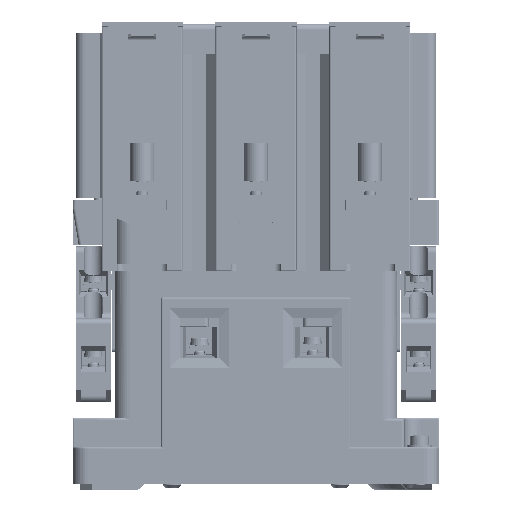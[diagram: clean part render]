
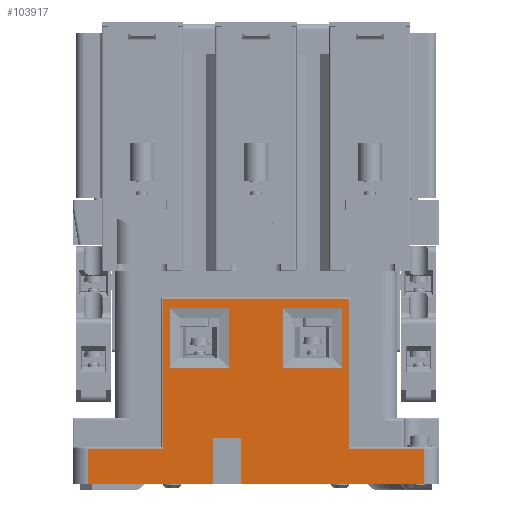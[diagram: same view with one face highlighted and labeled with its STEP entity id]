
A CAD part, left-side view. The second image highlights one B-rep face of the part: STEP entity #103917.
In plain terms, the highlighted planar face has unit normal (-1, 0, 0).
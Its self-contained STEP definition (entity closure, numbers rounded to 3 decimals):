
#4433=DIRECTION('',(0.,0.,1.));
#4434=VECTOR('',#4433,15.);
#4435=CARTESIAN_POINT('',(3.1,74.,-151.065));
#4436=LINE('',#4435,#4434);
#4441=DIRECTION('',(0.,1.,0.));
#4442=VECTOR('',#4441,60.);
#4443=CARTESIAN_POINT('',(3.1,5.,-151.065));
#4444=LINE('',#4443,#4442);
#4445=DIRECTION('',(0.,0.,1.));
#4446=VECTOR('',#4445,15.);
#4447=CARTESIAN_POINT('',(3.1,65.,-151.065));
#4448=LINE('',#4447,#4446);
#4449=DIRECTION('',(0.,1.,0.));
#4450=VECTOR('',#4449,9.);
#4451=CARTESIAN_POINT('',(3.1,65.,-136.065));
#4452=LINE('',#4451,#4450);
#4453=DIRECTION('',(0.,1.,0.));
#4454=VECTOR('',#4453,41.);
#4455=CARTESIAN_POINT('',(3.1,74.,-151.065));
#4456=LINE('',#4455,#4454);
#4457=DIRECTION('',(0.,-1.,0.));
#4458=VECTOR('',#4457,19.4);
#4459=CARTESIAN_POINT('',(3.1,51.2,-113.065));
#4460=LINE('',#4459,#4458);
#4461=DIRECTION('',(0.,0.,1.));
#4462=VECTOR('',#4461,19.4);
#4463=CARTESIAN_POINT('',(3.1,31.8,-113.065));
#4464=LINE('',#4463,#4462);
#4465=DIRECTION('',(0.,1.,0.));
#4466=VECTOR('',#4465,19.4);
#4467=CARTESIAN_POINT('',(3.1,31.8,-93.665));
#4468=LINE('',#4467,#4466);
#4469=DIRECTION('',(0.,0.,-1.));
#4470=VECTOR('',#4469,19.4);
#4471=CARTESIAN_POINT('',(3.1,51.2,-93.665));
#4472=LINE('',#4471,#4470);
#4473=DIRECTION('',(0.,-1.,0.));
#4474=VECTOR('',#4473,19.4);
#4475=CARTESIAN_POINT('',(3.1,88.2,-113.065));
#4476=LINE('',#4475,#4474);
#4477=DIRECTION('',(0.,0.,1.));
#4478=VECTOR('',#4477,19.4);
#4479=CARTESIAN_POINT('',(3.1,68.8,-113.065));
#4480=LINE('',#4479,#4478);
#4481=DIRECTION('',(0.,1.,0.));
#4482=VECTOR('',#4481,19.4);
#4483=CARTESIAN_POINT('',(3.1,68.8,-93.665));
#4484=LINE('',#4483,#4482);
#4485=DIRECTION('',(0.,0.,-1.));
#4486=VECTOR('',#4485,19.4);
#4487=CARTESIAN_POINT('',(3.1,88.2,-93.665));
#4488=LINE('',#4487,#4486);
#4493=DIRECTION('',(0.,1.,0.));
#4494=VECTOR('',#4493,24.5);
#4495=CARTESIAN_POINT('',(3.1,5.,-139.565));
#4496=LINE('',#4495,#4494);
#14867=DIRECTION('',(0.,1.,0.));
#14868=VECTOR('',#14867,24.5);
#14869=CARTESIAN_POINT('',(3.1,90.5,-139.565));
#14870=LINE('',#14869,#14868);
#14875=DIRECTION('',(0.,0.,-1.));
#14876=VECTOR('',#14875,49.);
#14877=CARTESIAN_POINT('',(3.1,90.5,-90.565));
#14878=LINE('',#14877,#14876);
#14915=DIRECTION('',(0.,1.,0.));
#14916=VECTOR('',#14915,61.);
#14917=CARTESIAN_POINT('',(3.1,29.5,-90.565));
#14918=LINE('',#14917,#14916);
#14964=DIRECTION('',(0.,0.,1.));
#14965=VECTOR('',#14964,49.);
#14966=CARTESIAN_POINT('',(3.1,29.5,-139.565));
#14967=LINE('',#14966,#14965);
#15200=DIRECTION('',(0.,0.,-1.));
#15201=VECTOR('',#15200,11.5);
#15202=CARTESIAN_POINT('',(3.1,115.,-139.565));
#15203=LINE('',#15202,#15201);
#57257=DIRECTION('',(0.,0.,1.));
#57258=VECTOR('',#57257,11.5);
#57259=CARTESIAN_POINT('',(3.1,5.,-151.065));
#57260=LINE('',#57259,#57258);
#85335=CARTESIAN_POINT('',(3.1,65.,-151.065));
#85336=VERTEX_POINT('',#85335);
#85337=CARTESIAN_POINT('',(3.1,5.,-151.065));
#85338=VERTEX_POINT('',#85337);
#85351=CARTESIAN_POINT('',(3.1,115.,-151.065));
#85352=VERTEX_POINT('',#85351);
#85353=CARTESIAN_POINT('',(3.1,74.,-151.065));
#85354=VERTEX_POINT('',#85353);
#85865=CARTESIAN_POINT('',(3.1,74.,-136.065));
#85866=VERTEX_POINT('',#85865);
#85867=CARTESIAN_POINT('',(3.1,5.,-139.565));
#85868=CARTESIAN_POINT('',(3.1,29.5,-139.565));
#85869=VERTEX_POINT('',#85867);
#85870=VERTEX_POINT('',#85868);
#85871=CARTESIAN_POINT('',(3.1,65.,-136.065));
#85872=VERTEX_POINT('',#85871);
#85873=CARTESIAN_POINT('',(3.1,115.,-139.565));
#85874=VERTEX_POINT('',#85873);
#85875=CARTESIAN_POINT('',(3.1,90.5,-139.565));
#85876=VERTEX_POINT('',#85875);
#85877=CARTESIAN_POINT('',(3.1,90.5,-90.565));
#85878=VERTEX_POINT('',#85877);
#85879=CARTESIAN_POINT('',(3.1,29.5,-90.565));
#85880=VERTEX_POINT('',#85879);
#85881=CARTESIAN_POINT('',(3.1,51.2,-113.065));
#85882=CARTESIAN_POINT('',(3.1,31.8,-113.065));
#85883=VERTEX_POINT('',#85881);
#85884=VERTEX_POINT('',#85882);
#85885=CARTESIAN_POINT('',(3.1,31.8,-93.665));
#85886=VERTEX_POINT('',#85885);
#85887=CARTESIAN_POINT('',(3.1,51.2,-93.665));
#85888=VERTEX_POINT('',#85887);
#85889=CARTESIAN_POINT('',(3.1,88.2,-113.065));
#85890=CARTESIAN_POINT('',(3.1,68.8,-113.065));
#85891=VERTEX_POINT('',#85889);
#85892=VERTEX_POINT('',#85890);
#85893=CARTESIAN_POINT('',(3.1,68.8,-93.665));
#85894=VERTEX_POINT('',#85893);
#85895=CARTESIAN_POINT('',(3.1,88.2,-93.665));
#85896=VERTEX_POINT('',#85895);
#103869=CARTESIAN_POINT('',(3.1,120.,-151.065));
#103870=DIRECTION('',(-1.,0.,0.));
#103871=DIRECTION('',(0.,0.,1.));
#103872=AXIS2_PLACEMENT_3D('',#103869,#103870,#103871);
#103873=PLANE('',#103872);
#103875=ORIENTED_EDGE('',*,*,#103874,.F.);
#103877=ORIENTED_EDGE('',*,*,#103876,.F.);
#103878=ORIENTED_EDGE('',*,*,#102707,.T.);
#103880=ORIENTED_EDGE('',*,*,#103879,.T.);
#103882=ORIENTED_EDGE('',*,*,#103881,.T.);
#103883=ORIENTED_EDGE('',*,*,#103860,.F.);
#103884=ORIENTED_EDGE('',*,*,#102723,.T.);
#103886=ORIENTED_EDGE('',*,*,#103885,.F.);
#103888=ORIENTED_EDGE('',*,*,#103887,.F.);
#103890=ORIENTED_EDGE('',*,*,#103889,.F.);
#103892=ORIENTED_EDGE('',*,*,#103891,.F.);
#103894=ORIENTED_EDGE('',*,*,#103893,.F.);
#103895=EDGE_LOOP('',(#103875,#103877,#103878,#103880,#103882,#103883,#103884,
#103886,#103888,#103890,#103892,#103894));
#103896=FACE_OUTER_BOUND('',#103895,.F.);
#103898=ORIENTED_EDGE('',*,*,#103897,.T.);
#103900=ORIENTED_EDGE('',*,*,#103899,.T.);
#103902=ORIENTED_EDGE('',*,*,#103901,.T.);
#103904=ORIENTED_EDGE('',*,*,#103903,.T.);
#103905=EDGE_LOOP('',(#103898,#103900,#103902,#103904));
#103906=FACE_BOUND('',#103905,.F.);
#103908=ORIENTED_EDGE('',*,*,#103907,.T.);
#103910=ORIENTED_EDGE('',*,*,#103909,.T.);
#103912=ORIENTED_EDGE('',*,*,#103911,.T.);
#103914=ORIENTED_EDGE('',*,*,#103913,.T.);
#103915=EDGE_LOOP('',(#103908,#103910,#103912,#103914));
#103916=FACE_BOUND('',#103915,.F.);
#103917=ADVANCED_FACE('',(#103896,#103906,#103916),#103873,.T.);
#102707=EDGE_CURVE('',#85338,#85336,#4444,.T.);
#102723=EDGE_CURVE('',#85354,#85352,#4456,.T.);
#103860=EDGE_CURVE('',#85354,#85866,#4436,.T.);
#103874=EDGE_CURVE('',#85869,#85870,#4496,.T.);
#103876=EDGE_CURVE('',#85338,#85869,#57260,.T.);
#103879=EDGE_CURVE('',#85336,#85872,#4448,.T.);
#103881=EDGE_CURVE('',#85872,#85866,#4452,.T.);
#103885=EDGE_CURVE('',#85874,#85352,#15203,.T.);
#103887=EDGE_CURVE('',#85876,#85874,#14870,.T.);
#103889=EDGE_CURVE('',#85878,#85876,#14878,.T.);
#103891=EDGE_CURVE('',#85880,#85878,#14918,.T.);
#103893=EDGE_CURVE('',#85870,#85880,#14967,.T.);
#103897=EDGE_CURVE('',#85883,#85884,#4460,.T.);
#103899=EDGE_CURVE('',#85884,#85886,#4464,.T.);
#103901=EDGE_CURVE('',#85886,#85888,#4468,.T.);
#103903=EDGE_CURVE('',#85888,#85883,#4472,.T.);
#103907=EDGE_CURVE('',#85891,#85892,#4476,.T.);
#103909=EDGE_CURVE('',#85892,#85894,#4480,.T.);
#103911=EDGE_CURVE('',#85894,#85896,#4484,.T.);
#103913=EDGE_CURVE('',#85896,#85891,#4488,.T.);
